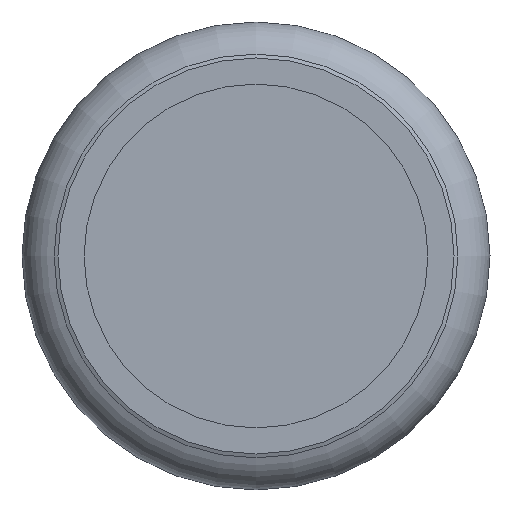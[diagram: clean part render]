
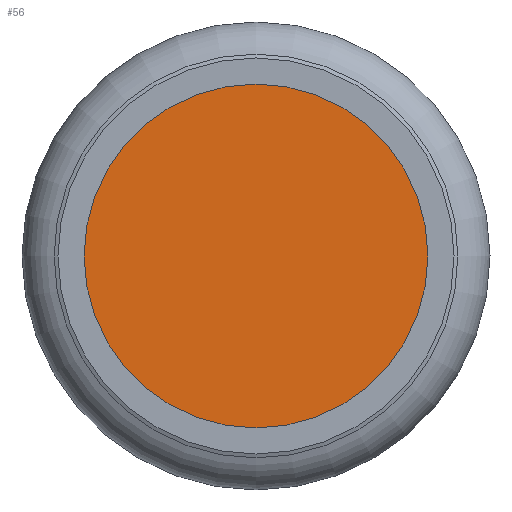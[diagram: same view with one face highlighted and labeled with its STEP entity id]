
A CAD part, front view. The second image highlights one B-rep face of the part: STEP entity #56.
In plain terms, the highlighted planar face has unit normal (0, -1, 0).
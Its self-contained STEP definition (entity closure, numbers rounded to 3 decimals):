
#56=ADVANCED_FACE('',(#93),#95,.T.);
#93=FACE_BOUND('',#94,.T.);
#94=EDGE_LOOP('',(#204));
#95=PLANE('',#96);
#96=AXIS2_PLACEMENT_3D('',#97,#98,#99);
#97=CARTESIAN_POINT('',(0.,-57.,0.));
#98=DIRECTION('',(0.,-1.,0.));
#99=DIRECTION('',(0.,0.,-1.));
#204=ORIENTED_EDGE('',*,*,#229,.T.);
#229=EDGE_CURVE('',#244,#244,#245,.T.);
#244=VERTEX_POINT('',#274);
#245=CIRCLE('',#275,9.55);
#274=CARTESIAN_POINT('',(0.,-57.,9.55));
#275=AXIS2_PLACEMENT_3D('',#276,#277,#278);
#276=CARTESIAN_POINT('',(0.,-57.,0.));
#277=DIRECTION('',(0.,-1.,0.));
#278=DIRECTION('',(0.,0.,1.));
